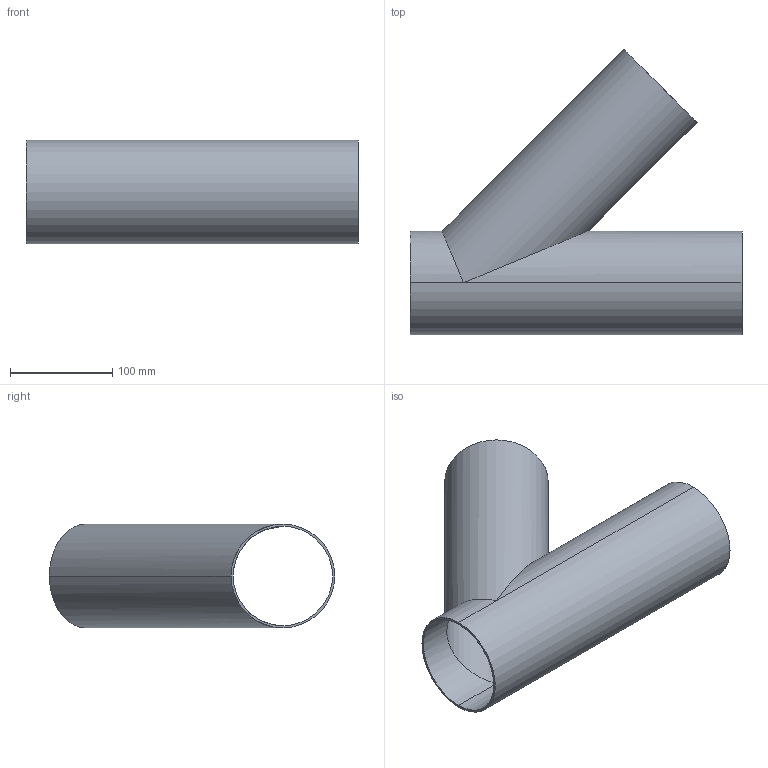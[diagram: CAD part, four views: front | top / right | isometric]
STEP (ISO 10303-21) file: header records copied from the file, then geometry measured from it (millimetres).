
FILE_DESCRIPTION (( 'STEP AP203' ), '1' );
FILE_NAME ('E28WA4.0.STEP', '2018-05-04T12:42:29', ( 'vneprd' ), ( 'Microsoft' ), 'SwSTEP 2.0', 'SolidWorks 2014', '' );
FILE_SCHEMA (( 'CONFIG_CONTROL_DESIGN' ));
Length unit declared in the file: inch
Products named in the file (1): E28WA4.0
Bounding box: 325.42 x 279.8 x 101.6 mm (x, y, z)
Volume: 335328.6 mm3; surface area: 320078.5 mm2
Topology: 1 solids, 1 shells, 13 faces, 32 edges, 20 vertices
Faces by surface type: cylinder 10, plane 3
Entity records: 473 total; most frequent: CARTESIAN_POINT 90, DIRECTION 64, ORIENTED_EDGE 64, EDGE_CURVE 32, AXIS2_PLACEMENT_3D 26, VERTEX_POINT 20, EDGE_LOOP 16, FACE_OUTER_BOUND 13
